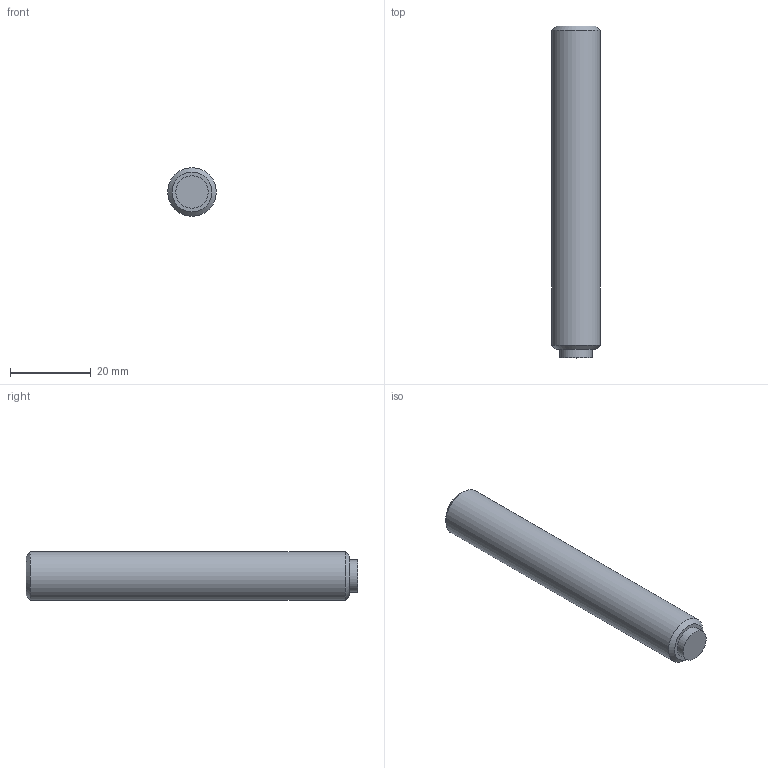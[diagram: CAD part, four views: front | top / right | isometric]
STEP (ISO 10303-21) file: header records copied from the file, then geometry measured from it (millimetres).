
FILE_DESCRIPTION( ( 'STEP AP203' ), '1' );
FILE_NAME( 'C:/Temp/Ganter_Step_05_03_2020/data/3_2/gn913_3/Grub screw GN 913.3-M12-80-KU.stp', '2020-03-13T05:35:42', ( 'License CC BY-ND 4.0' ), ( 'CADENAS' ), ' ', 'PARTsolutions', ' ' );
FILE_SCHEMA( ( 'CONFIG_CONTROL_DESIGN' ) );
Length unit declared in the file: millimetre
Products named in the file (1): _Grub screw GN 913.3-M12-80-KU
Bounding box: 12 x 82.1 x 12 mm (x, y, z)
Volume: 8863.1 mm3; surface area: 3410.8 mm2
Topology: 1 solids, 1 shells, 14 faces, 28 edges, 18 vertices
Faces by surface type: plane 10, cylinder 2, cone 2
Full cylindrical faces by diameter (mm): 8 x1, 12 x1
Entity records: 386 total; most frequent: DIRECTION 60, CARTESIAN_POINT 57, ORIENTED_EDGE 48, EDGE_CURVE 24, AXIS2_PLACEMENT_3D 21, EDGE_LOOP 20, VERTEX_POINT 18, LINE 18
